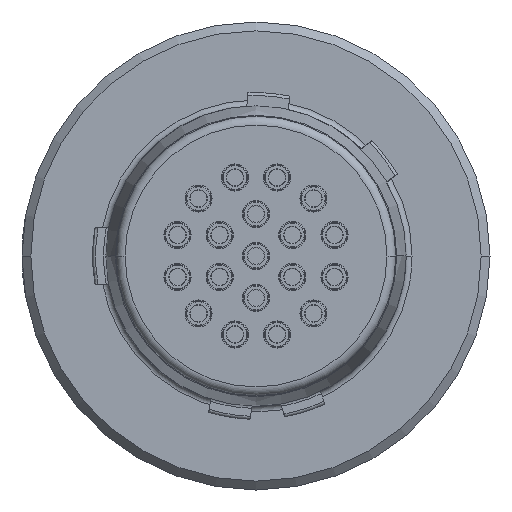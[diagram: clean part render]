
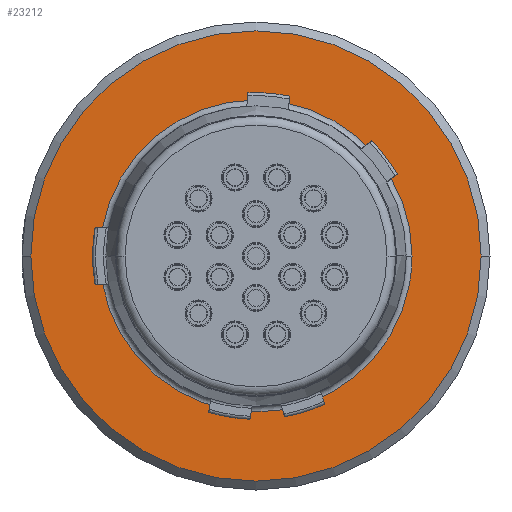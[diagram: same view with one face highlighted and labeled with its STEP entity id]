
A CAD part, left-side view. The second image highlights one B-rep face of the part: STEP entity #23212.
In plain terms, the highlighted planar face has unit normal (-1, 0, 0).
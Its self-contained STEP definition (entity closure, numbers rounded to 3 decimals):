
#4427=CARTESIAN_POINT('',(0.,0.,0.));
#4428=DIRECTION('',(1.,0.,0.));
#4429=DIRECTION('',(0.,-1.,0.));
#4430=AXIS2_PLACEMENT_3D('',#4427,#4428,#4429);
#4432=CARTESIAN_POINT('',(0.,0.,0.));
#4433=DIRECTION('',(1.,0.,0.));
#4434=DIRECTION('',(0.,1.,0.));
#4435=AXIS2_PLACEMENT_3D('',#4432,#4433,#4434);
#4437=CARTESIAN_POINT('',(0.,0.,0.));
#4438=DIRECTION('',(-1.,0.,0.));
#4439=DIRECTION('',(0.,-1.,0.));
#4440=AXIS2_PLACEMENT_3D('',#4437,#4438,#4439);
#4442=CARTESIAN_POINT('',(0.,0.,0.));
#4443=DIRECTION('',(-1.,0.,0.));
#4444=DIRECTION('',(0.,1.,0.));
#4445=AXIS2_PLACEMENT_3D('',#4442,#4443,#4444);
#4447=CARTESIAN_POINT('',(0.,0.,0.));
#4448=DIRECTION('',(-1.,0.,0.));
#4449=DIRECTION('',(0.,-0.982,-0.189));
#4450=AXIS2_PLACEMENT_3D('',#4447,#4448,#4449);
#13857=CARTESIAN_POINT('',(0.,7.65,0.));
#13858=VERTEX_POINT('',#13857);
#13859=CARTESIAN_POINT('',(0.,-7.65,0.));
#13860=VERTEX_POINT('',#13859);
#13861=CARTESIAN_POINT('',(0.,-5.3,0.));
#13862=CARTESIAN_POINT('',(0.,5.3,0.001));
#13863=VERTEX_POINT('',#13861);
#13864=VERTEX_POINT('',#13862);
#13865=CARTESIAN_POINT('',(0.,-5.205,-0.999));
#13866=VERTEX_POINT('',#13865);
#23195=CARTESIAN_POINT('',(0.,0.,0.));
#23196=DIRECTION('',(-1.,0.,0.));
#23197=DIRECTION('',(0.,-1.,0.));
#23198=AXIS2_PLACEMENT_3D('',#23195,#23196,#23197);
#23199=PLANE('',#23198);
#23200=ORIENTED_EDGE('',*,*,#23160,.T.);
#23201=ORIENTED_EDGE('',*,*,#23183,.T.);
#23202=EDGE_LOOP('',(#23200,#23201));
#23203=FACE_OUTER_BOUND('',#23202,.F.);
#23205=ORIENTED_EDGE('',*,*,#23204,.T.);
#23207=ORIENTED_EDGE('',*,*,#23206,.T.);
#23209=ORIENTED_EDGE('',*,*,#23208,.T.);
#23210=EDGE_LOOP('',(#23205,#23207,#23209));
#23211=FACE_BOUND('',#23210,.F.);
#4431=CIRCLE('',#4430,7.65);
#4436=CIRCLE('',#4435,7.65);
#4441=CIRCLE('',#4440,5.3);
#4446=CIRCLE('',#4445,5.3);
#4451=CIRCLE('',#4450,5.3);
#23160=EDGE_CURVE('',#13860,#13858,#4431,.T.);
#23183=EDGE_CURVE('',#13858,#13860,#4436,.T.);
#23204=EDGE_CURVE('',#13863,#13864,#4441,.T.);
#23206=EDGE_CURVE('',#13864,#13866,#4446,.T.);
#23208=EDGE_CURVE('',#13866,#13863,#4451,.T.);
#23212=ADVANCED_FACE('',(#23203,#23211),#23199,.T.);
